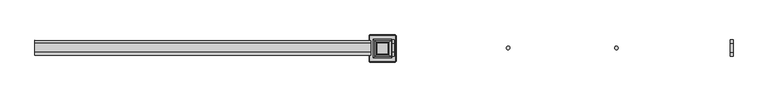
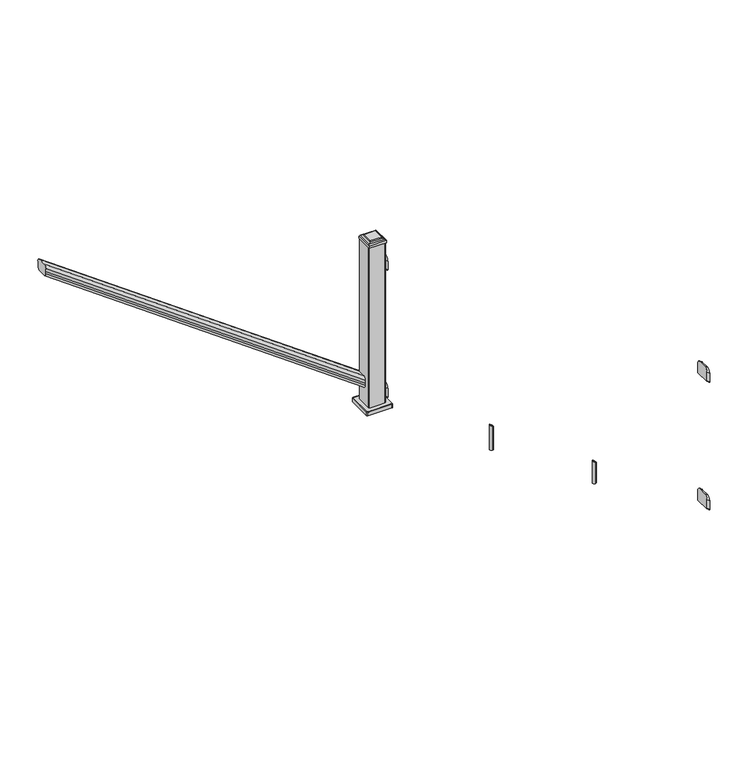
"""IFC4 building model written with IfcOpenShell, lengths in millimetres: railing geometry, NewTechWood - Westminister Gray."""

from ifc_helpers import new_model, si_unit, point, frame, frame_2d, origin, place, context, project, spatial, polyline, circle_curve, ellipse_curve, trimmed, segment, composite_curve, outline, extrude, faceted_brep, source, transform, mapped, element, save
from ifc_brep_helpers import plane_surface, cylinder_surface, revolved_surface, advanced_brep


def railing_33662ed4(model_context):
    return source(origin(), model_context, "Body", "SolidModel", [
        advanced_brep(
        [(-13507.1266255, 8311.4293699, 1712.3341733), (-13507.1266255, 8328.1685291, 1732.9511921), (-13507.1266255, 8328.1685291, 1744.7413637), (-13507.1266255, 8328.6570478, 1761.4764927), (-13507.1266255, 8313.0884425, 1780.6517825), (-13507.1266255, 8265.4055209, 1780.6517825), (-13507.1266255, 8249.8369156, 1761.4764927), (-13507.1266255, 8250.3254343, 1744.7413637), (-13507.1266255, 8250.3254343, 1732.9511921), (-13507.1266255, 8267.0645935, 1712.3341733), (-15306.1266255, 8267.0645935, 3005.8590513), (-15306.1266255, 8250.3254343, 3026.4760701), (-15306.1266255, 8250.3254343, 3038.2662417), (-15306.1266255, 8249.8369156, 3055.0013707), (-15306.1266255, 8265.4055209, 3074.1766606), (-15306.1266255, 8313.0884425, 3074.1766606), (-15306.1266255, 8328.6570478, 3055.0013707), (-15306.1266255, 8328.1685291, 3038.2662417), (-15306.1266255, 8328.1685291, 3026.4760701), (-15306.1266255, 8311.4293699, 3005.8590513)],
        [
            (0, 1, ellipse_curve(frame((-13507.1266255, 8311.4293699, 1732.9511921), z_axis=(1.0, 0.0, 0.0), x_axis=(0.0, 0.0, -1.0)), 20.6170188, 16.7391591)),
            (1, 2),
            (2, 3, ellipse_curve(frame((-13507.1266255, 8341.0814856, 1752.5479207), z_axis=(-1.0, 0.0, 0.0), x_axis=(0.0, 0.0, 1.0)), 17.7170259, 14.3846265)),
            (3, 4, ellipse_curve(frame((-13507.1266255, 8313.0884425, 1761.4764927), z_axis=(1.0, 0.0, 0.0), x_axis=(0.0, 0.0, -1.0)), 19.1752899, 15.5686053)),
            (4, 5),
            (5, 6, ellipse_curve(frame((-13507.1266255, 8265.4055209, 1761.4764927), z_axis=(1.0, 0.0, 0.0), x_axis=(0.0, 0.0, -1.0)), 19.1752899, 15.5686053)),
            (6, 7, ellipse_curve(frame((-13507.1266255, 8237.4124778, 1752.5479207), z_axis=(-1.0, 0.0, 0.0), x_axis=(0.0, 0.0, 1.0)), 17.7170259, 14.3846265)),
            (7, 8),
            (8, 9, ellipse_curve(frame((-13507.1266255, 8267.0645935, 1732.9511921), z_axis=(1.0, 0.0, 0.0), x_axis=(0.0, 0.0, -1.0)), 20.6170188, 16.7391591)),
            (9, 0),
            (10, 11, ellipse_curve(frame((-15306.1266255, 8267.0645935, 3026.4760701), z_axis=(-1.0, 0.0, 0.0), x_axis=(0.0, 0.0, -1.0)), 20.6170188, 16.7391591)),
            (11, 12),
            (12, 13, ellipse_curve(frame((-15306.1266255, 8237.4124778, 3046.0727988), z_axis=(1.0, 0.0, 0.0), x_axis=(0.0, 0.0, 1.0)), 17.7170259, 14.3846265)),
            (13, 14, ellipse_curve(frame((-15306.1266255, 8265.4055209, 3055.0013707), z_axis=(-1.0, 0.0, 0.0), x_axis=(0.0, 0.0, -1.0)), 19.1752899, 15.5686053)),
            (14, 15),
            (15, 16, ellipse_curve(frame((-15306.1266255, 8313.0884425, 3055.0013707), z_axis=(-1.0, 0.0, 0.0), x_axis=(0.0, 0.0, -1.0)), 19.1752899, 15.5686053)),
            (16, 17, ellipse_curve(frame((-15306.1266255, 8341.0814856, 3046.0727988), z_axis=(1.0, 0.0, 0.0), x_axis=(0.0, 0.0, 1.0)), 17.7170259, 14.3846265)),
            (17, 18),
            (18, 19, ellipse_curve(frame((-15306.1266255, 8311.4293699, 3026.4760701), z_axis=(-1.0, 0.0, 0.0), x_axis=(0.0, 0.0, -1.0)), 20.6170188, 16.7391591)),
            (19, 10),
            (9, 10),
            (19, 0),
            (8, 11),
            (7, 12),
            (6, 13),
            (5, 14),
            (4, 15),
            (3, 16),
            (2, 17),
            (1, 18),
        ],
        [
            plane_surface(frame((-13507.1266255, 8415.6017144, 2628.6593724), z_axis=(1.0, 0.0, 0.0), x_axis=(0.0, -1.0, 0.0))),
            plane_surface(frame((-15306.1266255, 8415.6017144, 2990.7512981), z_axis=(-1.0, 0.0, 0.0), x_axis=(0.0, -1.0, 0.0))),
            plane_surface(frame((-13482.6073247, 8311.4293699, 1694.704198), z_axis=(-0.5837829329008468, 0.0, -0.8119097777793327), x_axis=(-0.8119097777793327, 0.0, 0.5837829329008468))),
            cylinder_surface(frame((-13472.8352893, 8267.0645935, 1708.294885), z_axis=(0.8119097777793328, 0.0, -0.5837829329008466), x_axis=(-0.5837829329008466, 0.0, -0.8119097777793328)), 16.7391591),
            plane_surface(frame((-13472.8352893, 8250.3254343, 1708.294885), z_axis=(0.0, -1.0000000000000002, 0.0), x_axis=(-0.8119097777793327, 0.0, 0.5837829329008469))),
            revolved_surface(polyline([(-15322.921624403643, 8237.4124778, 3040.431786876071), (-13507.126625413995, 8237.4124778, 1734.8308949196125)]), (-13463.54685, 8237.4124778, 1721.2129993), (-0.8119097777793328, 0.0, 0.5837829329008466)),
            cylinder_surface(frame((-13459.3148938, 8265.4055209, 1727.0986914), z_axis=(0.8119097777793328, 0.0, -0.5837829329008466), x_axis=(-0.5837829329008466, 0.0, -0.8119097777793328)), 15.5686053),
            plane_surface(frame((-13450.2262077, 8265.4055209, 1739.7389943), z_axis=(0.5837829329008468, 0.0, 0.8119097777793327), x_axis=(-0.8119097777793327, 0.0, 0.5837829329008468))),
            cylinder_surface(frame((-13459.3148938, 8313.0884425, 1727.0986914), z_axis=(0.8119097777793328, 0.0, -0.5837829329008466), x_axis=(-0.5837829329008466, 0.0, -0.8119097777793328)), 15.5686053),
            revolved_surface(polyline([(-15322.921624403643, 8341.0814856, 3040.431786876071), (-13507.126625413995, 8341.0814856, 1734.8308949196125)]), (-13463.54685, 8341.0814856, 1721.2129993), (-0.8119097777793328, 0.0, 0.5837829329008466)),
            plane_surface(frame((-13467.2469947, 8328.1685291, 1716.0669365), z_axis=(0.0, 1.0, 0.0), x_axis=(-0.8119097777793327, 0.0, 0.5837829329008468))),
            cylinder_surface(frame((-13472.8352893, 8311.4293699, 1708.294885), z_axis=(0.8119097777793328, 0.0, -0.5837829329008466), x_axis=(-0.5837829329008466, 0.0, -0.8119097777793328)), 16.7391591),
        ],
        [
            (0, [[1, 2, 3, 4, 5, 6, 7, 8, 9, 10]]),
            (1, [[11, 12, 13, 14, 15, 16, 17, 18, 19, 20]]),
            (2, [[-10, 21, -20, 22]]),
            (3, [[-9, 23, -11, -21]]),
            (4, [[-8, 24, -12, -23]]),
            (5, [[-7, 25, -13, -24]]),
            (6, [[-6, 26, -14, -25]]),
            (7, [[-5, 27, -15, -26]]),
            (8, [[-4, 28, -16, -27]]),
            (9, [[-3, 29, -17, -28]]),
            (10, [[-2, 30, -18, -29]]),
            (11, [[-19, -30, -1, -22]]),
        ],
    ),
        advanced_brep(
        [(-13512.2392817, 8215.3872573, 1596.5), (-13377.5592817, 8215.3872573, 1596.5), (-13374.3997143, 8218.5468247, 1596.5), (-13374.3997143, 8353.2268247, 1596.5), (-13377.5592817, 8356.3863921, 1596.5), (-13512.2392817, 8356.3863921, 1596.5), (-13515.3988491, 8353.2268247, 1596.5), (-13515.3988491, 8218.5468247, 1596.5), (-13372.3992817, 8353.2268247, 1574.0), (-13372.3992817, 8218.5468247, 1574.0), (-13377.5592817, 8213.3868247, 1574.0), (-13512.2392817, 8213.3868247, 1574.0), (-13517.3992817, 8218.5468247, 1574.0), (-13517.3992817, 8353.2268247, 1574.0), (-13512.2392817, 8358.3868247, 1574.0), (-13377.5592817, 8358.3868247, 1574.0), (-13372.3992817, 8353.2268247, 1594.4995674), (-13372.3992817, 8218.5468247, 1594.4995674), (-13377.5592817, 8213.3868247, 1594.499569), (-13512.2392817, 8213.3868247, 1594.499569), (-13517.3992817, 8218.5468247, 1594.4995691), (-13517.3992817, 8353.2268247, 1594.4995674), (-13512.2392817, 8358.3868247, 1594.4995692), (-13377.5592817, 8358.3868247, 1594.4995674)],
        [
            (0, 1),
            (1, 2, circle_curve(frame((-13377.5592817, 8218.5468247, 1596.5), z_axis=(0.0, 0.0, 1.0), x_axis=(1.0, 0.0, 0.0)), 3.1595674)),
            (2, 3),
            (3, 4, circle_curve(frame((-13377.5592817, 8353.2268247, 1596.5), z_axis=(0.0, 0.0, 1.0), x_axis=(0.0, 1.0, 0.0)), 3.1595674)),
            (4, 5),
            (5, 6, circle_curve(frame((-13512.2392817, 8353.2268247, 1596.5), z_axis=(0.0, 0.0, 1.0), x_axis=(-1.0, 0.0, 0.0)), 3.1595674)),
            (6, 7),
            (7, 0, circle_curve(frame((-13512.2392817, 8218.5468247, 1596.5), z_axis=(0.0, 0.0, 1.0), x_axis=(0.0, -1.0, 0.0)), 3.1595674)),
            (8, 9),
            (9, 10, circle_curve(frame((-13377.5592817, 8218.5468247, 1574.0), z_axis=(0.0, 0.0, -1.0), x_axis=(0.0, 1.0, 0.0)), 5.16)),
            (10, 11),
            (11, 12, circle_curve(frame((-13512.2392817, 8218.5468247, 1574.0), z_axis=(0.0, 0.0, -1.0), x_axis=(0.0, 1.0, 0.0)), 5.16)),
            (12, 13),
            (13, 14, circle_curve(frame((-13512.2392817, 8353.2268247, 1574.0), z_axis=(0.0, 0.0, -1.0), x_axis=(0.0, 1.0, 0.0)), 5.16)),
            (14, 15),
            (15, 8, circle_curve(frame((-13377.5592817, 8353.2268247, 1574.0), z_axis=(0.0, 0.0, -1.0), x_axis=(0.0, 1.0, 0.0)), 5.16)),
            (8, 16),
            (16, 17),
            (17, 9),
            (17, 18, circle_curve(frame((-13377.5592817, 8218.5468247, 1594.4995674), z_axis=(0.0, 0.0, -1.0), x_axis=(0.0, 1.0, 0.0)), 5.16)),
            (18, 10),
            (18, 19),
            (19, 11),
            (19, 20, circle_curve(frame((-13512.2392817, 8218.5468247, 1594.4995674), z_axis=(0.0, 0.0, -1.0), x_axis=(0.0, 1.0, 0.0)), 5.16)),
            (20, 12),
            (20, 21),
            (21, 13),
            (21, 22, circle_curve(frame((-13512.2392817, 8353.2268247, 1594.4995674), z_axis=(0.0, 0.0, -1.0), x_axis=(0.0, 1.0, 0.0)), 5.16)),
            (22, 14),
            (22, 23),
            (23, 15),
            (23, 16, circle_curve(frame((-13377.5592817, 8353.2268247, 1594.4995674), z_axis=(0.0, 0.0, -1.0), x_axis=(0.0, 1.0, 0.0)), 5.16)),
            (19, 0, circle_curve(frame((-13512.2392817, 8215.3872573, 1594.4995674), z_axis=(-1.0, 0.0, 0.0), x_axis=(0.0, 1.0, 0.0)), 2.0004326)),
            (7, 20, circle_curve(frame((-13515.3988491, 8218.5468247, 1594.4995674), z_axis=(0.0, -1.0, 0.0), x_axis=(1.0, 0.0, 0.0)), 2.0004326)),
            (6, 21, circle_curve(frame((-13515.3988491, 8353.2268247, 1594.4995674), z_axis=(0.0, -1.0, 0.0), x_axis=(1.0, 0.0, 0.0)), 2.0004326)),
            (5, 22, circle_curve(frame((-13512.2392817, 8356.3863921, 1594.4995674), z_axis=(-1.0, 0.0, 0.0), x_axis=(0.0, -1.0, 0.0)), 2.0004326)),
            (4, 23, circle_curve(frame((-13377.5592817, 8356.3863921, 1594.4995674), z_axis=(-1.0, 0.0, 0.0), x_axis=(0.0, -1.0, 0.0)), 2.0004326)),
            (3, 16, circle_curve(frame((-13374.3997143, 8353.2268247, 1594.4995674), z_axis=(0.0, 1.0, 0.0), x_axis=(-1.0, 0.0, 0.0)), 2.0004326)),
            (2, 17, circle_curve(frame((-13374.3997143, 8218.5468247, 1594.4995674), z_axis=(0.0, 1.0, 0.0), x_axis=(-1.0, 0.0, 0.0)), 2.0004326)),
            (1, 18, circle_curve(frame((-13377.5592817, 8215.3872573, 1594.4995674), z_axis=(1.0, 0.0, 0.0), x_axis=(0.0, 1.0, 0.0)), 2.0004326)),
        ],
        [
            plane_surface(frame((-13372.3992817, 8326.4508309, 1596.5), z_axis=(0.0, 0.0, 1.0), x_axis=(0.0, -1.0, 0.0))),
            plane_surface(frame((-13372.3992817, 8326.4508309, 1574.0), z_axis=(0.0, 0.0, -1.0), x_axis=(0.0, 1.0, 0.0))),
            plane_surface(frame((-13372.3992817, 8353.2268247, 1596.5), z_axis=(1.0, 0.0, 0.0), x_axis=(0.0, 0.0, -1.0))),
            cylinder_surface(frame((-13377.5592817, 8218.5468247, 1574.0), z_axis=(0.0, 0.0, 1.0), x_axis=(0.0, 1.0, 0.0)), 5.16),
            plane_surface(frame((-13377.5592817, 8213.3868247, 1596.5), z_axis=(0.0, -1.0, 0.0), x_axis=(0.0, 0.0, -1.0))),
            cylinder_surface(frame((-13512.2392817, 8218.5468247, 1574.0), z_axis=(0.0, 0.0, 1.0), x_axis=(0.0, 1.0, 0.0)), 5.16),
            plane_surface(frame((-13517.3992817, 8218.5468247, 1596.5), z_axis=(-1.0, 0.0, 0.0), x_axis=(0.0, 0.0, -1.0))),
            cylinder_surface(frame((-13512.2392817, 8353.2268247, 1574.0), z_axis=(0.0, 0.0, 1.0), x_axis=(0.0, 1.0, 0.0)), 5.16),
            plane_surface(frame((-13512.2392817, 8358.3868247, 1596.5), z_axis=(0.0, 1.0, 0.0), x_axis=(0.0, 0.0, -1.0))),
            cylinder_surface(frame((-13377.5592817, 8353.2268247, 1574.0), z_axis=(0.0, 0.0, 1.0), x_axis=(0.0, 1.0, 0.0)), 5.16),
            revolved_surface(trimmed(ellipse_curve(frame((-13512.2392817, 8215.3872573, 1594.4995674), z_axis=(-1.0, 0.0, 0.0), x_axis=(0.0, 1.0, 0.0)), 2.0004326, 2.0004326), [point((-13512.2392817, 8213.3868247, 1594.4995674))], [point((-13512.2392817, 8215.3872573, 1596.5))], True, "CARTESIAN"), (-13512.2392817, 8218.5468247, 1596.5), (0.0, 0.0, 1.0)),
            cylinder_surface(frame((-13515.3988491, 8218.5468247, 1594.4995674), z_axis=(0.0, 1.0, 0.0), x_axis=(1.0, 0.0, 0.0)), 2.0004326),
            revolved_surface(trimmed(ellipse_curve(frame((-13515.3988491, 8353.2268247, 1594.4995674), z_axis=(0.0, 1.0, 0.0), x_axis=(1.0, 0.0, 0.0)), 2.0004326, 2.0004326), [point((-13517.3992817, 8353.2268247, 1594.4995674))], [point((-13515.3988491, 8353.2268247, 1596.5))], True, "CARTESIAN"), (-13512.2392817, 8353.2268247, 1596.5), (0.0, 0.0, 1.0)),
            cylinder_surface(frame((-13512.2392817, 8356.3863921, 1594.4995674), z_axis=(1.0, 0.0, 0.0), x_axis=(0.0, -1.0, 0.0)), 2.0004326),
            revolved_surface(trimmed(ellipse_curve(frame((-13377.5592817, 8356.3863921, 1594.4995674), z_axis=(1.0, 0.0, 0.0), x_axis=(0.0, -1.0, 0.0)), 2.0004326, 2.0004326), [point((-13377.5592817, 8358.3868247, 1594.4995674))], [point((-13377.5592817, 8356.3863921, 1596.5))], True, "CARTESIAN"), (-13377.5592817, 8353.2268247, 1596.5), (0.0, 0.0, 1.0)),
            cylinder_surface(frame((-13374.3997143, 8353.2268247, 1594.4995674), z_axis=(0.0, -1.0, 0.0), x_axis=(-1.0, 0.0, 0.0)), 2.0004326),
            revolved_surface(trimmed(ellipse_curve(frame((-13374.3997143, 8218.5468247, 1594.4995674), z_axis=(0.0, -1.0, 0.0), x_axis=(-1.0, 0.0, 0.0)), 2.0004326, 2.0004326), [point((-13372.3992817, 8218.5468247, 1594.4995674))], [point((-13374.3997143, 8218.5468247, 1596.5))], True, "CARTESIAN"), (-13377.5592817, 8218.5468247, 1596.5), (0.0, 0.0, 1.0)),
            cylinder_surface(frame((-13377.5592817, 8215.3872573, 1594.4995674), z_axis=(-1.0, 0.0, 0.0), x_axis=(0.0, 1.0, 0.0)), 2.0004326),
        ],
        [
            (0, [[1, 2, 3, 4, 5, 6, 7, 8]]),
            (1, [[9, 10, 11, 12, 13, 14, 15, 16]]),
            (2, [[17, 18, 19, -9]]),
            (3, [[-19, 20, 21, -10]]),
            (4, [[-21, 22, 23, -11]]),
            (5, [[-23, 24, 25, -12]]),
            (6, [[-25, 26, 27, -13]]),
            (7, [[-27, 28, 29, -14]]),
            (8, [[-29, 30, 31, -15]]),
            (9, [[-31, 32, -17, -16]]),
            (10, [[-24, 33, -8, 34]]),
            (11, [[-7, 35, -26, -34]]),
            (12, [[-6, 36, -28, -35]]),
            (13, [[-5, 37, -30, -36]]),
            (14, [[-4, 38, -32, -37]]),
            (15, [[-3, 39, -18, -38]]),
            (16, [[-2, 40, -20, -39]]),
            (17, [[-22, -40, -1, -33]]),
        ],
    ),
        faceted_brep([(-13493.9492817, 8236.8368247, 2564.769699), (-13493.9492817, 8334.9368247, 2564.769699), (-13493.9492817, 8334.9368247, 2550.139699), (-13493.9492817, 8236.8368247, 2550.139699), (-13489.9166056, 8240.8695008, 2570.0825536), (-13489.9166056, 8330.9041486, 2570.0825536), (-13480.691498, 8250.0946084, 2574.5958992), (-13480.691498, 8321.6790409, 2574.5958992), (-13476.1947306, 8254.5913758, 2578.4), (-13476.1947306, 8317.1822735, 2578.4), (-13395.8492817, 8334.9368247, 2564.769699), (-13395.8492817, 8334.9368247, 2550.139699), (-13399.8819578, 8330.9041486, 2570.0825536), (-13409.1070655, 8321.6790409, 2574.5958992), (-13413.6038329, 8317.1822735, 2578.4), (-13395.8492817, 8236.8368247, 2564.769699), (-13395.8492817, 8236.8368247, 2550.139699), (-13399.8819578, 8240.8695008, 2570.0825536), (-13409.1070655, 8250.0946084, 2574.5958992), (-13413.6038329, 8254.5913758, 2578.4)], [[[0, 1, 2, 3]], [[4, 5, 1, 0]], [[6, 7, 5, 4]], [[8, 9, 7, 6]], [[1, 10, 11, 2]], [[5, 12, 10, 1]], [[7, 13, 12, 5]], [[9, 14, 13, 7]], [[10, 15, 16, 11]], [[12, 17, 15, 10]], [[13, 18, 17, 12]], [[14, 19, 18, 13]], [[15, 0, 3, 16]], [[17, 4, 0, 15]], [[18, 6, 4, 17]], [[19, 8, 6, 18]], [[9, 8, 19, 14]], [[3, 2, 11, 16]]]),
        extrude(outline(composite_curve([segment(polyline([(-13401.3092817, 8238.6868247), (-13488.4892817, 8238.6868247)]), True, "CONTINUOUS"), segment(trimmed(circle_curve(frame_2d((-13488.4892817, 8242.2968247)), 3.61), [point((-13488.4892817, 8238.6868247))], [point((-13492.0992817, 8242.2968247))], False, "CARTESIAN"), True, "CONTINUOUS"), segment(polyline([(-13492.0992817, 8242.2968247), (-13492.0992817, 8329.4768247)]), True, "CONTINUOUS"), segment(trimmed(circle_curve(frame_2d((-13488.4892817, 8329.4768247)), 3.61), [point((-13492.0992817, 8329.4768247))], [point((-13488.4892817, 8333.0868247))], False, "CARTESIAN"), True, "CONTINUOUS"), segment(polyline([(-13488.4892817, 8333.0868247), (-13401.3092817, 8333.0868247)]), True, "CONTINUOUS"), segment(trimmed(circle_curve(frame_2d((-13401.3092817, 8329.4768247)), 3.61), [point((-13401.3092817, 8333.0868247))], [point((-13397.6992817, 8329.4768247))], False, "CARTESIAN"), True, "CONTINUOUS"), segment(polyline([(-13397.6992817, 8329.4768247), (-13397.6992817, 8242.2968247)]), True, "CONTINUOUS"), segment(trimmed(circle_curve(frame_2d((-13401.3092817, 8242.2968247)), 3.61), [point((-13397.6992817, 8242.2968247))], [point((-13401.3092817, 8238.6868247))], False, "CARTESIAN"), True, "CONTINUOUS")], self_intersect=False)), frame((0.0, 0.0, 1596.5), z_axis=(0.0, 0.0, 1.0), x_axis=(1.0, 0.0, 0.0)), (0.0, 0.0, 1.0), 953.639699),
        advanced_brep(
        [(-11583.671938, 8333.6419817, 1138.0873262), (-11583.671938, 8333.6419817, 1087.0102224), (-11583.671938, 8330.0919817, 1082.6378154), (-11583.671938, 8248.4019817, 1082.6378154), (-11583.671938, 8244.8519817, 1087.0102224), (-11583.671938, 8244.8519817, 1138.0873262), (-11583.671938, 8264.5319817, 1162.3264727), (-11583.671938, 8313.9619817, 1162.3264727), (-11568.671938, 8313.9619817, 1151.5411068), (-11568.671938, 8264.5319817, 1151.5411068), (-11568.671938, 8244.8519817, 1127.3019604), (-11568.671938, 8244.8519817, 1076.2248566), (-11568.671938, 8248.4019817, 1071.8524496), (-11568.671938, 8330.0919817, 1071.8524496), (-11568.671938, 8333.6419817, 1076.2248566), (-11568.671938, 8333.6419817, 1127.3019604)],
        [
            (0, 1),
            (1, 2, ellipse_curve(frame((-11583.671938, 8330.0919817, 1087.0102224), z_axis=(-1.0, 0.0, 0.0), x_axis=(0.0, 0.0, -1.0)), 4.372407, 3.55)),
            (2, 3),
            (3, 4, ellipse_curve(frame((-11583.671938, 8248.4019817, 1087.0102224), z_axis=(-1.0, 0.0, 0.0), x_axis=(0.0, 0.0, -1.0)), 4.372407, 3.55)),
            (4, 5),
            (5, 6, ellipse_curve(frame((-11583.671938, 8264.5319817, 1138.0873262), z_axis=(-1.0, 0.0, 0.0), x_axis=(0.0, 0.0, -1.0)), 24.2391464, 19.68)),
            (6, 7),
            (7, 0, ellipse_curve(frame((-11583.671938, 8313.9619817, 1138.0873262), z_axis=(-1.0, 0.0, 0.0), x_axis=(0.0, 0.0, -1.0)), 24.2391464, 19.68)),
            (8, 9),
            (9, 10, ellipse_curve(frame((-11568.671938, 8264.5319817, 1127.3019604), z_axis=(1.0, 0.0, 0.0), x_axis=(0.0, 0.0, -1.0)), 24.2391464, 19.68)),
            (10, 11),
            (11, 12, ellipse_curve(frame((-11568.671938, 8248.4019817, 1076.2248566), z_axis=(1.0, 0.0, 0.0), x_axis=(0.0, 0.0, -1.0)), 4.372407, 3.55)),
            (12, 13),
            (13, 14, ellipse_curve(frame((-11568.671938, 8330.0919817, 1076.2248566), z_axis=(1.0, 0.0, 0.0), x_axis=(0.0, 0.0, -1.0)), 4.372407, 3.55)),
            (14, 15),
            (15, 8, ellipse_curve(frame((-11568.671938, 8313.9619817, 1127.3019604), z_axis=(1.0, 0.0, 0.0), x_axis=(0.0, 0.0, -1.0)), 24.2391464, 19.68)),
            (15, 0),
            (7, 8),
            (14, 1),
            (13, 2),
            (12, 3),
            (11, 4),
            (10, 5),
            (9, 6),
        ],
        [
            plane_surface(frame((-11583.671938, 8415.6017144, 314.2155862), z_axis=(-1.0, 0.0, 0.0), x_axis=(0.0, -1.0, 0.0))),
            plane_surface(frame((-11568.671938, 8415.6017144, 1296.44637), z_axis=(1.0, 0.0, 0.0), x_axis=(0.0, -1.0, 0.0))),
            cylinder_surface(frame((-11533.0846296, 8313.9619817, 1101.7138177), z_axis=(0.8119097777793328, 0.0, -0.5837829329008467), x_axis=(-0.5837829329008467, 0.0, -0.8119097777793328)), 19.68),
            plane_surface(frame((-11533.0846296, 8333.6419817, 1101.7138177), z_axis=(0.0, 1.0, 0.0), x_axis=(-0.8119097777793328, 0.0, 0.5837829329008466))),
            cylinder_surface(frame((-11557.2941078, 8330.0919817, 1068.0439192), z_axis=(0.8119097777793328, 0.0, -0.5837829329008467), x_axis=(-0.5837829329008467, 0.0, -0.8119097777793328)), 3.55),
            plane_surface(frame((-11559.3665372, 8330.0919817, 1065.1616395), z_axis=(-0.5837829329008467, 0.0, -0.8119097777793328), x_axis=(-0.8119097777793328, 0.0, 0.5837829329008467))),
            cylinder_surface(frame((-11557.2941078, 8248.4019817, 1068.0439192), z_axis=(0.8119097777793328, 0.0, -0.5837829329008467), x_axis=(-0.5837829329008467, 0.0, -0.8119097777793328)), 3.55),
            plane_surface(frame((-11557.2941078, 8244.8519817, 1068.0439192), z_axis=(0.0, -1.0, 0.0), x_axis=(-0.8119097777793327, 0.0, 0.5837829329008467))),
            cylinder_surface(frame((-11533.0846296, 8264.5319817, 1101.7138177), z_axis=(0.8119097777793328, 0.0, -0.5837829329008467), x_axis=(-0.5837829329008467, 0.0, -0.8119097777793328)), 19.68),
            plane_surface(frame((-11521.5957815, 8264.5319817, 1117.6922021), z_axis=(0.5837829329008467, 0.0, 0.8119097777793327), x_axis=(-0.8119097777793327, 0.0, 0.5837829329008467))),
        ],
        [
            (0, [[1, 2, 3, 4, 5, 6, 7, 8]]),
            (1, [[9, 10, 11, 12, 13, 14, 15, 16]]),
            (2, [[-16, 17, -8, 18]]),
            (3, [[-15, 19, -1, -17]]),
            (4, [[-14, 20, -2, -19]]),
            (5, [[-13, 21, -3, -20]]),
            (6, [[-12, 22, -4, -21]]),
            (7, [[-11, 23, -5, -22]]),
            (8, [[-10, 24, -6, -23]]),
            (9, [[-7, -24, -9, -18]]),
        ],
    ),
        advanced_brep(
        [(-13382.671938, 8313.9619817, 2455.8513507), (-13382.671938, 8264.5319817, 2455.8513507), (-13382.671938, 8244.8519817, 2431.6122043), (-13382.671938, 8244.8519817, 2380.5351005), (-13382.671938, 8248.4019817, 2376.1626935), (-13382.671938, 8330.0919817, 2376.1626935), (-13382.671938, 8333.6419817, 2380.5351005), (-13382.671938, 8333.6419817, 2431.6122043), (-13397.671938, 8333.6419817, 2442.3975701), (-13397.671938, 8333.6419817, 2391.3204663), (-13397.671938, 8330.0919817, 2386.9480593), (-13397.671938, 8248.4019817, 2386.9480593), (-13397.671938, 8244.8519817, 2391.3204663), (-13397.671938, 8244.8519817, 2442.3975701), (-13397.671938, 8264.5319817, 2466.6367166), (-13397.671938, 8313.9619817, 2466.6367166)],
        [
            (0, 1),
            (1, 2, ellipse_curve(frame((-13382.671938, 8264.5319817, 2431.6122043), z_axis=(1.0, 0.0, 0.0), x_axis=(0.0, 0.0, -1.0)), 24.2391464, 19.68)),
            (2, 3),
            (3, 4, ellipse_curve(frame((-13382.671938, 8248.4019817, 2380.5351005), z_axis=(1.0, 0.0, 0.0), x_axis=(0.0, 0.0, -1.0)), 4.372407, 3.55)),
            (4, 5),
            (5, 6, ellipse_curve(frame((-13382.671938, 8330.0919817, 2380.5351005), z_axis=(1.0, 0.0, 0.0), x_axis=(0.0, 0.0, -1.0)), 4.372407, 3.55)),
            (6, 7),
            (7, 0, ellipse_curve(frame((-13382.671938, 8313.9619817, 2431.6122043), z_axis=(1.0, 0.0, 0.0), x_axis=(0.0, 0.0, -1.0)), 24.2391464, 19.68)),
            (8, 9),
            (9, 10, ellipse_curve(frame((-13397.671938, 8330.0919817, 2391.3204663), z_axis=(-1.0, 0.0, 0.0), x_axis=(0.0, 0.0, -1.0)), 4.372407, 3.55)),
            (10, 11),
            (11, 12, ellipse_curve(frame((-13397.671938, 8248.4019817, 2391.3204663), z_axis=(-1.0, 0.0, 0.0), x_axis=(0.0, 0.0, -1.0)), 4.372407, 3.55)),
            (12, 13),
            (13, 14, ellipse_curve(frame((-13397.671938, 8264.5319817, 2442.3975701), z_axis=(-1.0, 0.0, 0.0), x_axis=(0.0, 0.0, -1.0)), 24.2391464, 19.68)),
            (14, 15),
            (15, 8, ellipse_curve(frame((-13397.671938, 8313.9619817, 2442.3975701), z_axis=(-1.0, 0.0, 0.0), x_axis=(0.0, 0.0, -1.0)), 24.2391464, 19.68)),
            (7, 8),
            (15, 0),
            (6, 9),
            (5, 10),
            (4, 11),
            (3, 12),
            (2, 13),
            (1, 14),
        ],
        [
            plane_surface(frame((-13382.671938, 8415.6017144, 2539.1734166), z_axis=(1.0, 0.0, 0.0), x_axis=(0.0, -1.0, 0.0))),
            plane_surface(frame((-13397.671938, 8415.6017144, 1556.9426329), z_axis=(-1.0, 0.0, 0.0), x_axis=(0.0, -1.0, 0.0))),
            cylinder_surface(frame((-11533.0846296, 8313.9619817, 1101.7138177), z_axis=(0.8119097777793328, 0.0, -0.5837829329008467), x_axis=(-0.5837829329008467, 0.0, -0.8119097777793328)), 19.68),
            plane_surface(frame((-11533.0846296, 8333.6419817, 1101.7138177), z_axis=(0.0, 1.0, 0.0), x_axis=(-0.8119097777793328, 0.0, 0.5837829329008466))),
            cylinder_surface(frame((-11557.2941078, 8330.0919817, 1068.0439192), z_axis=(0.8119097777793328, 0.0, -0.5837829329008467), x_axis=(-0.5837829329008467, 0.0, -0.8119097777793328)), 3.55),
            plane_surface(frame((-11559.3665372, 8330.0919817, 1065.1616395), z_axis=(-0.5837829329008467, 0.0, -0.8119097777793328), x_axis=(-0.8119097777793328, 0.0, 0.5837829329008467))),
            cylinder_surface(frame((-11557.2941078, 8248.4019817, 1068.0439192), z_axis=(0.8119097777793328, 0.0, -0.5837829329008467), x_axis=(-0.5837829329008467, 0.0, -0.8119097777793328)), 3.55),
            plane_surface(frame((-11557.2941078, 8244.8519817, 1068.0439192), z_axis=(0.0, -1.0, 0.0), x_axis=(-0.8119097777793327, 0.0, 0.5837829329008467))),
            cylinder_surface(frame((-11533.0846296, 8264.5319817, 1101.7138177), z_axis=(0.8119097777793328, 0.0, -0.5837829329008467), x_axis=(-0.5837829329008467, 0.0, -0.8119097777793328)), 19.68),
            plane_surface(frame((-11521.5957815, 8264.5319817, 1117.6922021), z_axis=(0.5837829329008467, 0.0, 0.8119097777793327), x_axis=(-0.8119097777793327, 0.0, 0.5837829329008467))),
        ],
        [
            (0, [[1, 2, 3, 4, 5, 6, 7, 8]]),
            (1, [[9, 10, 11, 12, 13, 14, 15, 16]]),
            (2, [[-8, 17, -16, 18]]),
            (3, [[-7, 19, -9, -17]]),
            (4, [[-6, 20, -10, -19]]),
            (5, [[-5, 21, -11, -20]]),
            (6, [[-4, 22, -12, -21]]),
            (7, [[-3, 23, -13, -22]]),
            (8, [[-2, 24, -14, -23]]),
            (9, [[-15, -24, -1, -18]]),
        ],
    ),
        advanced_brep(
        [(-11583.671938, 8313.9619817, 403.3264727), (-11583.671938, 8333.6419817, 379.0873262), (-11583.671938, 8333.6419817, 328.0102224), (-11583.671938, 8330.0919817, 323.6378154), (-11583.671938, 8248.4019817, 323.6378154), (-11583.671938, 8244.8519817, 328.0102224), (-11583.671938, 8244.8519817, 379.0873262), (-11583.671938, 8264.5319817, 403.3264727), (-11568.671938, 8264.5319817, 392.5411068), (-11568.671938, 8244.8519817, 368.3019604), (-11568.671938, 8244.8519817, 317.2248566), (-11568.671938, 8248.4019817, 312.8524496), (-11568.671938, 8330.0919817, 312.8524496), (-11568.671938, 8333.6419817, 317.2248566), (-11568.671938, 8333.6419817, 368.3019604), (-11568.671938, 8313.9619817, 392.5411068)],
        [
            (0, 1, ellipse_curve(frame((-11583.671938, 8313.9619817, 379.0873262), z_axis=(-1.0, 0.0, 0.0), x_axis=(0.0, 0.0, -1.0)), 24.2391464, 19.68)),
            (1, 2),
            (2, 3, ellipse_curve(frame((-11583.671938, 8330.0919817, 328.0102224), z_axis=(-1.0, 0.0, 0.0), x_axis=(0.0, 0.0, -1.0)), 4.372407, 3.55)),
            (3, 4),
            (4, 5, ellipse_curve(frame((-11583.671938, 8248.4019817, 328.0102224), z_axis=(-1.0, 0.0, 0.0), x_axis=(0.0, 0.0, -1.0)), 4.372407, 3.55)),
            (5, 6),
            (6, 7, ellipse_curve(frame((-11583.671938, 8264.5319817, 379.0873262), z_axis=(-1.0, 0.0, 0.0), x_axis=(0.0, 0.0, -1.0)), 24.2391464, 19.68)),
            (7, 0),
            (8, 9, ellipse_curve(frame((-11568.671938, 8264.5319817, 368.3019604), z_axis=(1.0, 0.0, 0.0), x_axis=(0.0, 0.0, -1.0)), 24.2391464, 19.68)),
            (9, 10),
            (10, 11, ellipse_curve(frame((-11568.671938, 8248.4019817, 317.2248566), z_axis=(1.0, 0.0, 0.0), x_axis=(0.0, 0.0, -1.0)), 4.372407, 3.55)),
            (11, 12),
            (12, 13, ellipse_curve(frame((-11568.671938, 8330.0919817, 317.2248566), z_axis=(1.0, 0.0, 0.0), x_axis=(0.0, 0.0, -1.0)), 4.372407, 3.55)),
            (13, 14),
            (14, 15, ellipse_curve(frame((-11568.671938, 8313.9619817, 368.3019604), z_axis=(1.0, 0.0, 0.0), x_axis=(0.0, 0.0, -1.0)), 24.2391464, 19.68)),
            (15, 8),
            (15, 0),
            (7, 8),
            (14, 1),
            (13, 2),
            (12, 3),
            (11, 4),
            (10, 5),
            (9, 6),
        ],
        [
            plane_surface(frame((-11583.671938, 8415.6017144, 314.2155862), z_axis=(-1.0, 0.0, 0.0), x_axis=(0.0, -1.0, 0.0))),
            plane_surface(frame((-11568.671938, 8415.6017144, 1296.44637), z_axis=(1.0, 0.0, 0.0), x_axis=(0.0, -1.0, 0.0))),
            plane_surface(frame((-11524.0767008, 8264.5319817, 360.4760436), z_axis=(0.5837829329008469, 0.0, 0.8119097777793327), x_axis=(-0.8119097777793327, 0.0, 0.5837829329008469))),
            cylinder_surface(frame((-11535.5655489, 8313.9619817, 344.4976592), z_axis=(0.8119097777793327, 0.0, -0.5837829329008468), x_axis=(-0.5837829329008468, 0.0, -0.8119097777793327)), 19.68),
            plane_surface(frame((-11535.5655489, 8333.6419817, 344.4976592), z_axis=(0.0, 1.0000000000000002, 0.0), x_axis=(-0.8119097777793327, 0.0, 0.5837829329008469))),
            cylinder_surface(frame((-11559.7750272, 8330.0919817, 310.8277607), z_axis=(0.8119097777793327, 0.0, -0.5837829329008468), x_axis=(-0.5837829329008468, 0.0, -0.8119097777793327)), 3.55),
            plane_surface(frame((-11561.8474566, 8330.0919817, 307.945481), z_axis=(-0.5837829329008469, 0.0, -0.8119097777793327), x_axis=(-0.8119097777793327, 0.0, 0.5837829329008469))),
            cylinder_surface(frame((-11559.7750272, 8248.4019817, 310.8277607), z_axis=(0.8119097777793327, 0.0, -0.5837829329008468), x_axis=(-0.5837829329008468, 0.0, -0.8119097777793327)), 3.55),
            plane_surface(frame((-11559.7750272, 8244.8519817, 310.8277607), z_axis=(0.0, -1.0000000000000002, 0.0), x_axis=(-0.8119097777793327, 0.0, 0.5837829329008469))),
            cylinder_surface(frame((-11535.5655489, 8264.5319817, 344.4976592), z_axis=(0.8119097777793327, 0.0, -0.5837829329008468), x_axis=(-0.5837829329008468, 0.0, -0.8119097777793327)), 19.68),
        ],
        [
            (0, [[1, 2, 3, 4, 5, 6, 7, 8]]),
            (1, [[9, 10, 11, 12, 13, 14, 15, 16]]),
            (2, [[-16, 17, -8, 18]]),
            (3, [[-15, 19, -1, -17]]),
            (4, [[-14, 20, -2, -19]]),
            (5, [[-13, 21, -3, -20]]),
            (6, [[-12, 22, -4, -21]]),
            (7, [[-11, 23, -5, -22]]),
            (8, [[-10, 24, -6, -23]]),
            (9, [[-7, -24, -9, -18]]),
        ],
    ),
        advanced_brep(
        [(-13382.671938, 8264.5319817, 1696.8513507), (-13382.671938, 8244.8519817, 1672.6122043), (-13382.671938, 8244.8519817, 1621.5351005), (-13382.671938, 8248.4019817, 1617.1626935), (-13382.671938, 8330.0919817, 1617.1626935), (-13382.671938, 8333.6419817, 1621.5351005), (-13382.671938, 8333.6419817, 1672.6122043), (-13382.671938, 8313.9619817, 1696.8513507), (-13397.671938, 8313.9619817, 1707.6367166), (-13397.671938, 8333.6419817, 1683.3975701), (-13397.671938, 8333.6419817, 1632.3204663), (-13397.671938, 8330.0919817, 1627.9480593), (-13397.671938, 8248.4019817, 1627.9480593), (-13397.671938, 8244.8519817, 1632.3204663), (-13397.671938, 8244.8519817, 1683.3975701), (-13397.671938, 8264.5319817, 1707.6367166)],
        [
            (0, 1, ellipse_curve(frame((-13382.671938, 8264.5319817, 1672.6122043), z_axis=(1.0, 0.0, 0.0), x_axis=(0.0, 0.0, -1.0)), 24.2391464, 19.68)),
            (1, 2),
            (2, 3, ellipse_curve(frame((-13382.671938, 8248.4019817, 1621.5351005), z_axis=(1.0, 0.0, 0.0), x_axis=(0.0, 0.0, -1.0)), 4.372407, 3.55)),
            (3, 4),
            (4, 5, ellipse_curve(frame((-13382.671938, 8330.0919817, 1621.5351005), z_axis=(1.0, 0.0, 0.0), x_axis=(0.0, 0.0, -1.0)), 4.372407, 3.55)),
            (5, 6),
            (6, 7, ellipse_curve(frame((-13382.671938, 8313.9619817, 1672.6122043), z_axis=(1.0, 0.0, 0.0), x_axis=(0.0, 0.0, -1.0)), 24.2391464, 19.68)),
            (7, 0),
            (8, 9, ellipse_curve(frame((-13397.671938, 8313.9619817, 1683.3975701), z_axis=(-1.0, 0.0, 0.0), x_axis=(0.0, 0.0, -1.0)), 24.2391464, 19.68)),
            (9, 10),
            (10, 11, ellipse_curve(frame((-13397.671938, 8330.0919817, 1632.3204663), z_axis=(-1.0, 0.0, 0.0), x_axis=(0.0, 0.0, -1.0)), 4.372407, 3.55)),
            (11, 12),
            (12, 13, ellipse_curve(frame((-13397.671938, 8248.4019817, 1632.3204663), z_axis=(-1.0, 0.0, 0.0), x_axis=(0.0, 0.0, -1.0)), 4.372407, 3.55)),
            (13, 14),
            (14, 15, ellipse_curve(frame((-13397.671938, 8264.5319817, 1683.3975701), z_axis=(-1.0, 0.0, 0.0), x_axis=(0.0, 0.0, -1.0)), 24.2391464, 19.68)),
            (15, 8),
            (7, 8),
            (15, 0),
            (6, 9),
            (5, 10),
            (4, 11),
            (3, 12),
            (2, 13),
            (1, 14),
        ],
        [
            plane_surface(frame((-13382.671938, 8415.6017144, 2539.1734166), z_axis=(1.0, 0.0, 0.0), x_axis=(0.0, -1.0, 0.0))),
            plane_surface(frame((-13397.671938, 8415.6017144, 1556.9426329), z_axis=(-1.0, 0.0, 0.0), x_axis=(0.0, -1.0, 0.0))),
            plane_surface(frame((-11524.0767008, 8264.5319817, 360.4760436), z_axis=(0.5837829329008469, 0.0, 0.8119097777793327), x_axis=(-0.8119097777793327, 0.0, 0.5837829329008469))),
            cylinder_surface(frame((-11535.5655489, 8313.9619817, 344.4976592), z_axis=(0.8119097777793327, 0.0, -0.5837829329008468), x_axis=(-0.5837829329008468, 0.0, -0.8119097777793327)), 19.68),
            plane_surface(frame((-11535.5655489, 8333.6419817, 344.4976592), z_axis=(0.0, 1.0000000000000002, 0.0), x_axis=(-0.8119097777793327, 0.0, 0.5837829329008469))),
            cylinder_surface(frame((-11559.7750272, 8330.0919817, 310.8277607), z_axis=(0.8119097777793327, 0.0, -0.5837829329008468), x_axis=(-0.5837829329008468, 0.0, -0.8119097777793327)), 3.55),
            plane_surface(frame((-11561.8474566, 8330.0919817, 307.945481), z_axis=(-0.5837829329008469, 0.0, -0.8119097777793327), x_axis=(-0.8119097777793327, 0.0, 0.5837829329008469))),
            cylinder_surface(frame((-11559.7750272, 8248.4019817, 310.8277607), z_axis=(0.8119097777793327, 0.0, -0.5837829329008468), x_axis=(-0.5837829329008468, 0.0, -0.8119097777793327)), 3.55),
            plane_surface(frame((-11559.7750272, 8244.8519817, 310.8277607), z_axis=(0.0, -1.0000000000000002, 0.0), x_axis=(-0.8119097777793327, 0.0, 0.5837829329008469))),
            cylinder_surface(frame((-11535.5655489, 8264.5319817, 344.4976592), z_axis=(0.8119097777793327, 0.0, -0.5837829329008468), x_axis=(-0.5837829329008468, 0.0, -0.8119097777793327)), 19.68),
        ],
        [
            (0, [[1, 2, 3, 4, 5, 6, 7, 8]]),
            (1, [[9, 10, 11, 12, 13, 14, 15, 16]]),
            (2, [[-8, 17, -16, 18]]),
            (3, [[-7, 19, -9, -17]]),
            (4, [[-6, 20, -10, -19]]),
            (5, [[-5, 21, -11, -20]]),
            (6, [[-4, 22, -12, -21]]),
            (7, [[-3, 23, -13, -22]]),
            (8, [[-2, 24, -14, -23]]),
            (9, [[-15, -24, -1, -18]]),
        ],
    ),
        advanced_brep(
        [(-12193.6719704, 8279.7469817, 795.4662869), (-12184.1719704, 8289.2469817, 788.6355552), (-12193.6719704, 8298.7469817, 795.4662869), (-12193.6719704, 8298.7469817, 668.761812), (-12193.6719704, 8279.7469817, 668.761812), (-12184.1719704, 8289.2469817, 668.761812)],
        [
            (0, 1, ellipse_curve(frame((-12193.6719704, 8289.2469817, 795.4662869), z_axis=(0.5837829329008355, 0.0, 0.8119097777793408), x_axis=(-0.8119097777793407, 0.0, 0.5837829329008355)), 11.7008075, 9.5)),
            (1, 2, ellipse_curve(frame((-12193.6719704, 8289.2469817, 795.4662869), z_axis=(0.5837829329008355, 0.0, 0.8119097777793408), x_axis=(-0.8119097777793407, 0.0, 0.5837829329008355)), 11.7008075, 9.5)),
            (2, 0, ellipse_curve(frame((-12193.6719704, 8289.2469817, 795.4662869), z_axis=(0.5837829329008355, 0.0, 0.8119097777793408), x_axis=(-0.8119097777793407, 0.0, 0.5837829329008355)), 11.7008075, 9.5)),
            (2, 3),
            (3, 4, circle_curve(frame((-12193.6719704, 8289.2469817, 668.761812), z_axis=(0.0, 0.0, 1.0), x_axis=(0.0, 1.0, 0.0)), 9.5)),
            (4, 0),
            (4, 5, circle_curve(frame((-12193.6719704, 8289.2469817, 668.761812), z_axis=(0.0, 0.0, 1.0), x_axis=(0.0, 1.0, 0.0)), 9.5)),
            (5, 3, circle_curve(frame((-12193.6719704, 8289.2469817, 668.761812), z_axis=(0.0, 0.0, 1.0), x_axis=(0.0, 1.0, 0.0)), 9.5)),
        ],
        [
            plane_surface(frame((-12782.1719055, 8439.2469817, 1218.6120939), z_axis=(0.5837829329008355, 0.0, 0.8119097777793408), x_axis=(0.0, -1.0, 0.0))),
            cylinder_surface(frame((-12193.6719704, 8289.2469817, -433.085344), z_axis=(0.0, 0.0, 1.0), x_axis=(0.0, 1.0, 0.0)), 9.5),
            plane_surface(frame((-12184.1719704, 8439.2469817, 668.761812), z_axis=(0.0, 0.0, -1.0), x_axis=(0.0, -1.0, 0.0))),
        ],
        [
            (0, [[1, 2, 3]]),
            (1, [[-3, 4, 5, 6]]),
            (1, [[7, 8, -4, -2, -1, -6]]),
            (2, [[-8, -7, -5]]),
        ],
    ),
        advanced_brep(
        [(-12772.6719055, 8279.7469817, 1211.7813622), (-12772.6719055, 8298.7469817, 1211.7813622), (-12782.1719055, 8289.2469817, 1218.6120939), (-12772.6719055, 8298.7469817, 1070.7101367), (-12782.1719055, 8289.2469817, 1070.7101367), (-12772.6719055, 8279.7469817, 1070.7101367)],
        [
            (0, 1, ellipse_curve(frame((-12772.6719055, 8289.2469817, 1211.7813622), z_axis=(0.5837829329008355, 0.0, 0.8119097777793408), x_axis=(-0.8119097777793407, 0.0, 0.5837829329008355)), 11.7008075, 9.5)),
            (1, 2, ellipse_curve(frame((-12772.6719055, 8289.2469817, 1211.7813622), z_axis=(0.5837829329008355, 0.0, 0.8119097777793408), x_axis=(-0.8119097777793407, 0.0, 0.5837829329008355)), 11.7008075, 9.5)),
            (2, 0, ellipse_curve(frame((-12772.6719055, 8289.2469817, 1211.7813622), z_axis=(0.5837829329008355, 0.0, 0.8119097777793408), x_axis=(-0.8119097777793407, 0.0, 0.5837829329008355)), 11.7008075, 9.5)),
            (1, 3),
            (3, 4, circle_curve(frame((-12772.6719055, 8289.2469817, 1070.7101367), z_axis=(0.0, 0.0, 1.0), x_axis=(0.0, 1.0, 0.0)), 9.5)),
            (4, 5, circle_curve(frame((-12772.6719055, 8289.2469817, 1070.7101367), z_axis=(0.0, 0.0, 1.0), x_axis=(0.0, 1.0, 0.0)), 9.5)),
            (5, 0),
            (5, 3, circle_curve(frame((-12772.6719055, 8289.2469817, 1070.7101367), z_axis=(0.0, 0.0, 1.0), x_axis=(0.0, 1.0, 0.0)), 9.5)),
        ],
        [
            plane_surface(frame((-12782.1719055, 8439.2469817, 1218.6120939), z_axis=(0.5837829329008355, 0.0, 0.8119097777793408), x_axis=(0.0, -1.0, 0.0))),
            cylinder_surface(frame((-12772.6719055, 8289.2469817, 882.4945831), z_axis=(0.0, 0.0, 1.0), x_axis=(0.0, 1.0, 0.0)), 9.5),
            plane_surface(frame((-12762.6719055, 8439.2469817, 1070.7101367), z_axis=(0.0, 0.0, -1.0), x_axis=(0.0, -1.0, 0.0))),
        ],
        [
            (0, [[1, 2, 3]]),
            (1, [[-3, -2, 4, 5, 6, 7]]),
            (1, [[8, -4, -1, -7]]),
            (2, [[-5, -8, -6]]),
        ],
    ),
    ])


if __name__ == "__main__":
    model = new_model("IFC4")
    model_context = context("Model", 3, world=origin())
    ifc_project = project(units=[si_unit("LENGTHUNIT", "METRE", prefix="MILLI")], contexts=[model_context])
    site = spatial("IfcSite", under=ifc_project)
    building = spatial("IfcBuilding", under=site)
    placement = place(None, origin())
    railing_shape = railing_33662ed4(model_context)
    element("IfcRailing", 1, ObjectType="NewTechWood - Westminister Gray", at=placement, inside=building, context=model_context, shape_type="MappedRepresentation", body=[
        mapped(railing_shape, transform((0.0, 0.0, 0.0), x_axis=(1.0, 0.0, 0.0), y_axis=(0.0, 1.0, 0.0), z_axis=(0.0, 0.0, 1.0))),
    ])
    save(model, "model.ifc")
